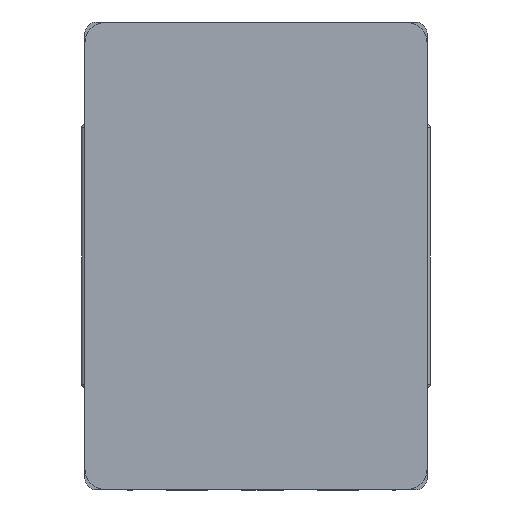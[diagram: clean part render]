
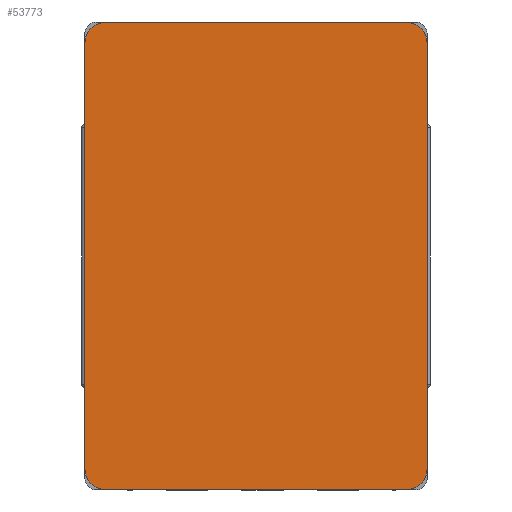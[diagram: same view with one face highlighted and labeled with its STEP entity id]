
A CAD part, front view. The second image highlights one B-rep face of the part: STEP entity #53773.
In plain terms, the highlighted planar face has unit normal (0, -1, 0).
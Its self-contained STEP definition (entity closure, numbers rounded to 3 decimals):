
#17529 = CARTESIAN_POINT ( 'NONE',  ( 0., 0., -133.2 ) ) ;
#22708 = CIRCLE ( 'NONE', #22895, 6. ) ;
#22887 = DIRECTION ( 'NONE',  ( 0., 0., -1. ) ) ;
#22890 = DIRECTION ( 'NONE',  ( 0., -1., 0. ) ) ;
#22894 = CARTESIAN_POINT ( 'NONE',  ( 96., 0., -6. ) ) ;
#22895 = AXIS2_PLACEMENT_3D ( 'NONE', #22894, #22890, #22887 ) ;
#27839 = CARTESIAN_POINT ( 'NONE',  ( 0., 0., -6. ) ) ;
#27903 = DIRECTION ( 'NONE',  ( 1., 0., 0. ) ) ;
#27906 = VECTOR ( 'NONE', #27903, 1000. ) ;
#27908 = CARTESIAN_POINT ( 'NONE',  ( 0., 0., 0. ) ) ;
#27910 = LINE ( 'NONE', #27908, #27906 ) ;
#28134 = DIRECTION ( 'NONE',  ( 0., 0., 1. ) ) ;
#28136 = VECTOR ( 'NONE', #28134, 1000. ) ;
#28137 = CARTESIAN_POINT ( 'NONE',  ( 0., 0., 0. ) ) ;
#28139 = LINE ( 'NONE', #28137, #28136 ) ;
#28256 = CARTESIAN_POINT ( 'NONE',  ( 102., 0., -6. ) ) ;
#28258 = CARTESIAN_POINT ( 'NONE',  ( 6., 0., 0. ) ) ;
#28508 = CARTESIAN_POINT ( 'NONE',  ( 96., 0., 0. ) ) ;
#29757 = CIRCLE ( 'NONE', #29789, 6. ) ;
#29781 = DIRECTION ( 'NONE',  ( 0., 0., -1. ) ) ;
#29783 = DIRECTION ( 'NONE',  ( 0., -1., 0. ) ) ;
#29786 = CARTESIAN_POINT ( 'NONE',  ( 96., 0., -133.2 ) ) ;
#29789 = AXIS2_PLACEMENT_3D ( 'NONE', #29786, #29783, #29781 ) ;
#30129 = CARTESIAN_POINT ( 'NONE',  ( 6., 0., -139.2 ) ) ;
#30157 = DIRECTION ( 'NONE',  ( -1., 0., 0. ) ) ;
#30160 = VECTOR ( 'NONE', #30157, 1000. ) ;
#30163 = CARTESIAN_POINT ( 'NONE',  ( 0., 0., -139.2 ) ) ;
#30165 = LINE ( 'NONE', #30163, #30160 ) ;
#30174 = DIRECTION ( 'NONE',  ( 0., 0., -1. ) ) ;
#30176 = DIRECTION ( 'NONE',  ( 0., -1., 0. ) ) ;
#30179 = CARTESIAN_POINT ( 'NONE',  ( 0., 0., -139.2 ) ) ;
#30181 = AXIS2_PLACEMENT_3D ( 'NONE', #30179, #30176, #30174 ) ;
#30183 = PLANE ( 'NONE',  #30181 ) ;
#30193 = FACE_OUTER_BOUND ( 'NONE', #53754, .T. ) ;
#30284 = CARTESIAN_POINT ( 'NONE',  ( 96., 0., -139.2 ) ) ;
#30329 = DIRECTION ( 'NONE',  ( 0., 0., -1. ) ) ;
#30332 = VECTOR ( 'NONE', #30329, 1000. ) ;
#30335 = CARTESIAN_POINT ( 'NONE',  ( 102., 0., 0. ) ) ;
#30336 = LINE ( 'NONE', #30335, #30332 ) ;
#30947 = CARTESIAN_POINT ( 'NONE',  ( 102., 0., -133.2 ) ) ;
#31659 = DIRECTION ( 'NONE',  ( 0., 0., -1. ) ) ;
#31661 = DIRECTION ( 'NONE',  ( 0., -1., 0. ) ) ;
#31662 = AXIS2_PLACEMENT_3D ( 'NONE', #31682, #31661, #31659 ) ;
#31663 = CIRCLE ( 'NONE', #31662, 6. ) ;
#31682 = CARTESIAN_POINT ( 'NONE',  ( 6., 0., -6. ) ) ;
#32772 = DIRECTION ( 'NONE',  ( 0., -1., 0. ) ) ;
#32773 = AXIS2_PLACEMENT_3D ( 'NONE', #32812, #32772, #32795 ) ;
#32776 = CIRCLE ( 'NONE', #32773, 6. ) ;
#32795 = DIRECTION ( 'NONE',  ( 0., 0., -1. ) ) ;
#32812 = CARTESIAN_POINT ( 'NONE',  ( 6., 0., -133.2 ) ) ;
#52309 = VERTEX_POINT ( 'NONE', #17529 ) ;
#53035 = EDGE_CURVE ( 'NONE', #53681, #53695, #22708, .T. ) ;
#53607 = VERTEX_POINT ( 'NONE', #27839 ) ;
#53639 = EDGE_CURVE ( 'NONE', #53677, #53695, #27910, .T. ) ;
#53664 = EDGE_CURVE ( 'NONE', #52309, #53607, #28139, .T. ) ;
#53677 = VERTEX_POINT ( 'NONE', #28258 ) ;
#53681 = VERTEX_POINT ( 'NONE', #28256 ) ;
#53695 = VERTEX_POINT ( 'NONE', #28508 ) ;
#53725 = ORIENTED_EDGE ( 'NONE', *, *, #53826, .F. ) ;
#53748 = ORIENTED_EDGE ( 'NONE', *, *, #53750, .T. ) ;
#53750 = EDGE_CURVE ( 'NONE', #53800, #53880, #29757, .T. ) ;
#53754 = EDGE_LOOP ( 'NONE', ( #53776, #53748, #53725, #53851, #54046, #53978, #54031, #54033 ) ) ;
#53773 = ADVANCED_FACE ( 'NONE', ( #30193 ), #30183, .T. ) ;
#53776 = ORIENTED_EDGE ( 'NONE', *, *, #53783, .F. ) ;
#53783 = EDGE_CURVE ( 'NONE', #53800, #53790, #30165, .T. ) ;
#53790 = VERTEX_POINT ( 'NONE', #30129 ) ;
#53800 = VERTEX_POINT ( 'NONE', #30284 ) ;
#53826 = EDGE_CURVE ( 'NONE', #53681, #53880, #30336, .T. ) ;
#53851 = ORIENTED_EDGE ( 'NONE', *, *, #53035, .T. ) ;
#53880 = VERTEX_POINT ( 'NONE', #30947 ) ;
#53978 = ORIENTED_EDGE ( 'NONE', *, *, #54016, .T. ) ;
#54016 = EDGE_CURVE ( 'NONE', #53677, #53607, #31663, .T. ) ;
#54031 = ORIENTED_EDGE ( 'NONE', *, *, #53664, .F. ) ;
#54033 = ORIENTED_EDGE ( 'NONE', *, *, #54119, .T. ) ;
#54046 = ORIENTED_EDGE ( 'NONE', *, *, #53639, .F. ) ;
#54119 = EDGE_CURVE ( 'NONE', #52309, #53790, #32776, .T. ) ;
